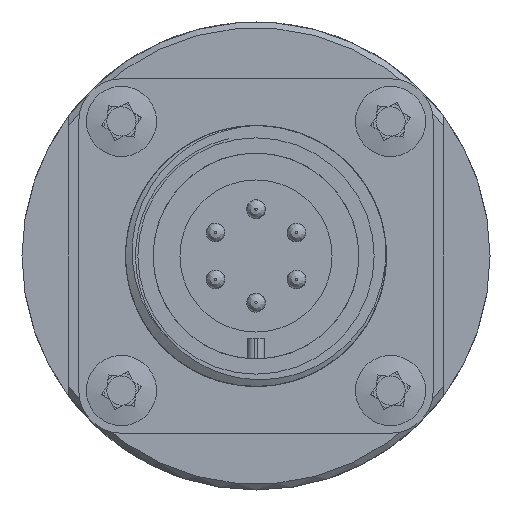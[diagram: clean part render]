
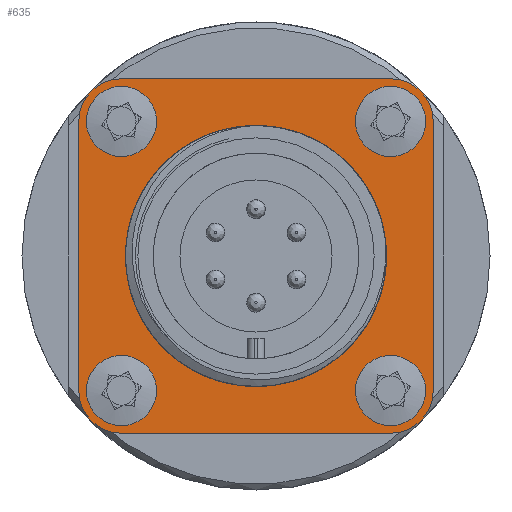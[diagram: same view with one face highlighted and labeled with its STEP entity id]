
A CAD part, front view. The second image highlights one B-rep face of the part: STEP entity #635.
In plain terms, the highlighted planar face has unit normal (0, -1, 0) as drawn and (-1, 0, 0) by its records, which use the part's own axes.
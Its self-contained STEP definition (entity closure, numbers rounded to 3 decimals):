
#635 = ADVANCED_FACE( '', ( #1275, #1276, #1277, #1278, #1279, #1280 ), #1281, .F. );
#1275 = FACE_BOUND( '', #6476, .T. );
#1276 = FACE_BOUND( '', #6477, .T. );
#1277 = FACE_OUTER_BOUND( '', #6478, .T. );
#1278 = FACE_BOUND( '', #6479, .T. );
#1279 = FACE_BOUND( '', #6480, .T. );
#1280 = FACE_BOUND( '', #6481, .T. );
#1281 = PLANE( '', #6482 );
#6476 = EDGE_LOOP( '', ( #7620 ) );
#6477 = EDGE_LOOP( '', ( #7621 ) );
#6478 = EDGE_LOOP( '', ( #7622, #7623, #7624, #7625, #7626, #7627, #7628, #7629 ) );
#6479 = EDGE_LOOP( '', ( #7630 ) );
#6480 = EDGE_LOOP( '', ( #7631 ) );
#6481 = EDGE_LOOP( '', ( #7632 ) );
#6482 = AXIS2_PLACEMENT_3D( '', #7633, #7634, #7635 );
#7620 = ORIENTED_EDGE( '', *, *, #8507, .T. );
#7621 = ORIENTED_EDGE( '', *, *, #8377, .T. );
#7622 = ORIENTED_EDGE( '', *, *, #8508, .F. );
#7623 = ORIENTED_EDGE( '', *, *, #8471, .F. );
#7624 = ORIENTED_EDGE( '', *, *, #8509, .F. );
#7625 = ORIENTED_EDGE( '', *, *, #8510, .F. );
#7626 = ORIENTED_EDGE( '', *, *, #8511, .F. );
#7627 = ORIENTED_EDGE( '', *, *, #8512, .F. );
#7628 = ORIENTED_EDGE( '', *, *, #8384, .F. );
#7629 = ORIENTED_EDGE( '', *, *, #8416, .F. );
#7630 = ORIENTED_EDGE( '', *, *, #8513, .T. );
#7631 = ORIENTED_EDGE( '', *, *, #8259, .T. );
#7632 = ORIENTED_EDGE( '', *, *, #8169, .T. );
#7633 = CARTESIAN_POINT( '', ( -2.4, -11.5, 11.5 ) );
#7634 = DIRECTION( '', ( 1., 0., 0. ) );
#7635 = DIRECTION( '', ( 0., 1., 0. ) );
#8169 = EDGE_CURVE( '', #8743, #8743, #8744, .T. );
#8259 = EDGE_CURVE( '', #8891, #8891, #8892, .T. );
#8377 = EDGE_CURVE( '', #9067, #9067, #9068, .T. );
#8384 = EDGE_CURVE( '', #9078, #9080, #9081, .T. );
#8416 = EDGE_CURVE( '', #9125, #9078, #9127, .T. );
#8471 = EDGE_CURVE( '', #9203, #9205, #9206, .T. );
#8507 = EDGE_CURVE( '', #9257, #9257, #9258, .T. );
#8508 = EDGE_CURVE( '', #9205, #9125, #9259, .T. );
#8509 = EDGE_CURVE( '', #9260, #9203, #9261, .T. );
#8510 = EDGE_CURVE( '', #9262, #9260, #9263, .T. );
#8511 = EDGE_CURVE( '', #9264, #9262, #9265, .T. );
#8512 = EDGE_CURVE( '', #9080, #9264, #9266, .T. );
#8513 = EDGE_CURVE( '', #9267, #9267, #9268, .T. );
#8743 = VERTEX_POINT( '', #10593 );
#8744 = CIRCLE( '', #10594, 1.5 );
#8891 = VERTEX_POINT( '', #11764 );
#8892 = CIRCLE( '', #11765, 1.5 );
#9067 = VERTEX_POINT( '', #12565 );
#9068 = CIRCLE( '', #12566, 1.5 );
#9078 = VERTEX_POINT( '', #12576 );
#9080 = VERTEX_POINT( '', #12579 );
#9081 = CIRCLE( '', #12580, 3.65 );
#9125 = VERTEX_POINT( '', #12653 );
#9127 = LINE( '', #12656, #12657 );
#9203 = VERTEX_POINT( '', #12938 );
#9205 = VERTEX_POINT( '', #12941 );
#9206 = LINE( '', #12942, #12943 );
#9257 = VERTEX_POINT( '', #13056 );
#9258 = CIRCLE( '', #13057, 11.15 );
#9259 = CIRCLE( '', #13058, 3.65 );
#9260 = VERTEX_POINT( '', #13059 );
#9261 = CIRCLE( '', #13060, 3.65 );
#9262 = VERTEX_POINT( '', #13061 );
#9263 = LINE( '', #13062, #13063 );
#9264 = VERTEX_POINT( '', #13064 );
#9265 = CIRCLE( '', #13065, 3.65 );
#9266 = LINE( '', #13066, #13067 );
#9267 = VERTEX_POINT( '', #13068 );
#9268 = CIRCLE( '', #13069, 1.5 );
#10593 = CARTESIAN_POINT( '', ( -2.4, -10., -11.5 ) );
#10594 = AXIS2_PLACEMENT_3D( '', #13333, #13334, #13335 );
#11764 = CARTESIAN_POINT( '', ( -2.4, 13., -11.5 ) );
#11765 = AXIS2_PLACEMENT_3D( '', #13455, #13456, #13457 );
#12565 = CARTESIAN_POINT( '', ( -2.4, -10., 11.5 ) );
#12566 = AXIS2_PLACEMENT_3D( '', #13602, #13603, #13604 );
#12576 = CARTESIAN_POINT( '', ( -2.4, -15.15, -11.5 ) );
#12579 = CARTESIAN_POINT( '', ( -2.4, -11.5, -15.15 ) );
#12580 = AXIS2_PLACEMENT_3D( '', #13615, #13616, #13617 );
#12653 = CARTESIAN_POINT( '', ( -2.4, -15.15, 11.5 ) );
#12656 = CARTESIAN_POINT( '', ( -2.4, -15.15, 11.5 ) );
#12657 = VECTOR( '', #13654, 1000. );
#12938 = CARTESIAN_POINT( '', ( -2.4, 11.5, 15.15 ) );
#12941 = CARTESIAN_POINT( '', ( -2.4, -11.5, 15.15 ) );
#12942 = CARTESIAN_POINT( '', ( -2.4, -11.5, 15.15 ) );
#12943 = VECTOR( '', #13716, 1000. );
#13056 = CARTESIAN_POINT( '', ( -2.4, 11.15, 0. ) );
#13057 = AXIS2_PLACEMENT_3D( '', #13739, #13740, #13741 );
#13058 = AXIS2_PLACEMENT_3D( '', #13742, #13743, #13744 );
#13059 = CARTESIAN_POINT( '', ( -2.4, 15.15, 11.5 ) );
#13060 = AXIS2_PLACEMENT_3D( '', #13745, #13746, #13747 );
#13061 = CARTESIAN_POINT( '', ( -2.4, 15.15, -11.5 ) );
#13062 = CARTESIAN_POINT( '', ( -2.4, 15.15, 11.5 ) );
#13063 = VECTOR( '', #13748, 1000. );
#13064 = CARTESIAN_POINT( '', ( -2.4, 11.5, -15.15 ) );
#13065 = AXIS2_PLACEMENT_3D( '', #13749, #13750, #13751 );
#13066 = CARTESIAN_POINT( '', ( -2.4, -11.5, -15.15 ) );
#13067 = VECTOR( '', #13752, 1000. );
#13068 = CARTESIAN_POINT( '', ( -2.4, 13., 11.5 ) );
#13069 = AXIS2_PLACEMENT_3D( '', #13753, #13754, #13755 );
#13333 = CARTESIAN_POINT( '', ( -2.4, -11.5, -11.5 ) );
#13334 = DIRECTION( '', ( 1., 0., 0. ) );
#13335 = DIRECTION( '', ( 0., 1., 0. ) );
#13455 = CARTESIAN_POINT( '', ( -2.4, 11.5, -11.5 ) );
#13456 = DIRECTION( '', ( 1., 0., 0. ) );
#13457 = DIRECTION( '', ( 0., 1., 0. ) );
#13602 = CARTESIAN_POINT( '', ( -2.4, -11.5, 11.5 ) );
#13603 = DIRECTION( '', ( 1., 0., 0. ) );
#13604 = DIRECTION( '', ( 0., 1., 0. ) );
#13615 = CARTESIAN_POINT( '', ( -2.4, -11.5, -11.5 ) );
#13616 = DIRECTION( '', ( 1., 0., 0. ) );
#13617 = DIRECTION( '', ( 0., 1., 0. ) );
#13654 = DIRECTION( '', ( 0., 0., -1. ) );
#13716 = DIRECTION( '', ( 0., -1., 0. ) );
#13739 = CARTESIAN_POINT( '', ( -2.4, 0., 0. ) );
#13740 = DIRECTION( '', ( 1., 0., 0. ) );
#13741 = DIRECTION( '', ( 0., 1., 0. ) );
#13742 = CARTESIAN_POINT( '', ( -2.4, -11.5, 11.5 ) );
#13743 = DIRECTION( '', ( 1., 0., 0. ) );
#13744 = DIRECTION( '', ( 0., 1., 0. ) );
#13745 = CARTESIAN_POINT( '', ( -2.4, 11.5, 11.5 ) );
#13746 = DIRECTION( '', ( 1., 0., 0. ) );
#13747 = DIRECTION( '', ( 0., 1., 0. ) );
#13748 = DIRECTION( '', ( 0., 0., 1. ) );
#13749 = CARTESIAN_POINT( '', ( -2.4, 11.5, -11.5 ) );
#13750 = DIRECTION( '', ( 1., 0., 0. ) );
#13751 = DIRECTION( '', ( 0., -1., 0. ) );
#13752 = DIRECTION( '', ( 0., 1., 0. ) );
#13753 = CARTESIAN_POINT( '', ( -2.4, 11.5, 11.5 ) );
#13754 = DIRECTION( '', ( 1., 0., 0. ) );
#13755 = DIRECTION( '', ( 0., 1., 0. ) );
